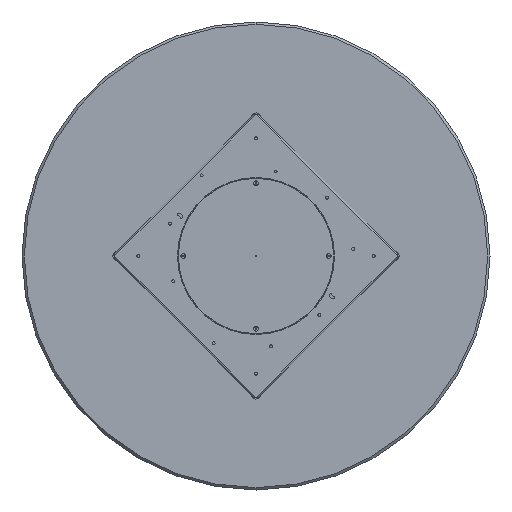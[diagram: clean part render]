
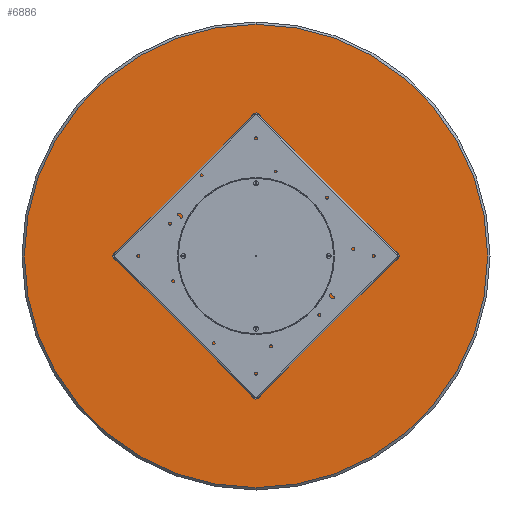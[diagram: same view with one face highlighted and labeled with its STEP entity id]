
A CAD part, front view. The second image highlights one B-rep face of the part: STEP entity #6886.
In plain terms, the highlighted planar face has unit normal (0, -1, 0).
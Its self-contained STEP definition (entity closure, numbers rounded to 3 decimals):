
#844 = AXIS2_PLACEMENT_3D ( 'NONE', #1557, #2745, #6451 ) ;
#904 = AXIS2_PLACEMENT_3D ( 'NONE', #14488, #15434, #2247 ) ;
#1557 = CARTESIAN_POINT ( 'NONE',  ( 0., 0., 0. ) ) ;
#2043 = VERTEX_POINT ( 'NONE', #9374 ) ;
#2247 = DIRECTION ( 'NONE',  ( 0., 0., -1. ) ) ;
#2611 = DIRECTION ( 'NONE',  ( 0., 0., -1. ) ) ;
#2745 = DIRECTION ( 'NONE',  ( 0., -1., 0. ) ) ;
#2772 = DIRECTION ( 'NONE',  ( 0., -1., 0. ) ) ;
#6378 = EDGE_CURVE ( 'NONE', #9547, #2043, #14292, .T. ) ;
#6451 = DIRECTION ( 'NONE',  ( 0., 0., -1. ) ) ;
#6886 = ADVANCED_FACE ( 'NONE', ( #7520 ), #13374, .T. ) ;
#7494 = AXIS2_PLACEMENT_3D ( 'NONE', #13528, #2772, #2611 ) ;
#7520 = FACE_OUTER_BOUND ( 'NONE', #13347, .T. ) ;
#9374 = CARTESIAN_POINT ( 'NONE',  ( 0., 0., 782. ) ) ;
#9547 = VERTEX_POINT ( 'NONE', #13653 ) ;
#10701 = CIRCLE ( 'NONE', #844, 782. ) ;
#12366 = ORIENTED_EDGE ( 'NONE', *, *, #6378, .T. ) ;
#13333 = ORIENTED_EDGE ( 'NONE', *, *, #13543, .T. ) ;
#13347 = EDGE_LOOP ( 'NONE', ( #13333, #12366 ) ) ;
#13374 = PLANE ( 'NONE',  #7494 ) ;
#13528 = CARTESIAN_POINT ( 'NONE',  ( 0., 0., 0. ) ) ;
#13543 = EDGE_CURVE ( 'NONE', #2043, #9547, #10701, .T. ) ;
#13653 = CARTESIAN_POINT ( 'NONE',  ( 0., 0., -782. ) ) ;
#14292 = CIRCLE ( 'NONE', #904, 782. ) ;
#14488 = CARTESIAN_POINT ( 'NONE',  ( 0., 0., 0. ) ) ;
#15434 = DIRECTION ( 'NONE',  ( 0., -1., 0. ) ) ;
